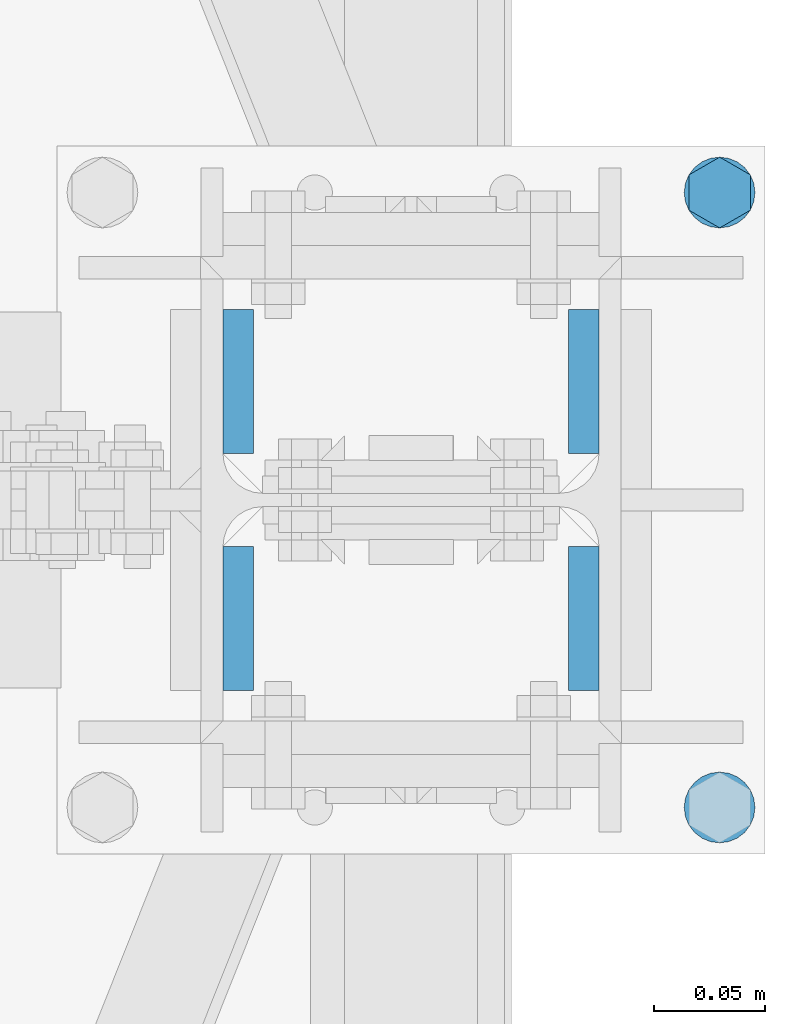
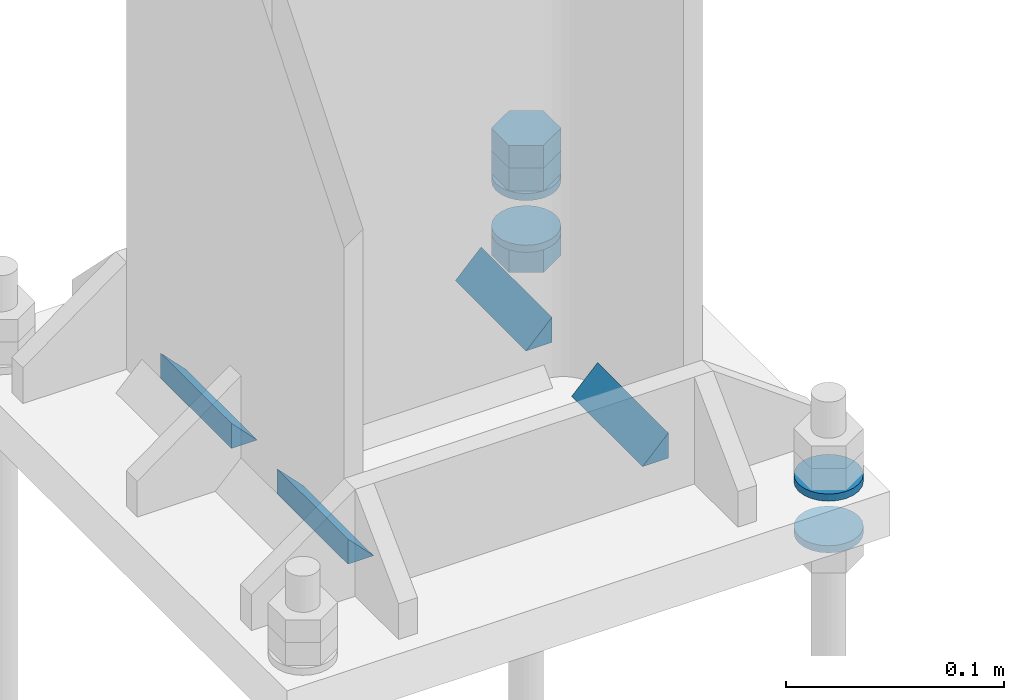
# One storey, part 117 of 251: 8 fasteners, 7 mechanical fasteners.
"""IFC4 building model written with IfcOpenShell, lengths in metres."""

from ifc_helpers import new_model, si_unit, frame, origin_with_axes, place, context, project, spatial, polyline, outline, extrude, type_object, element, save


model = new_model("IFC4")

# Units and contexts
model_context = context("Model", 3, precision=1e-05, world=origin_with_axes())
ifc_project = project(units=[si_unit("LENGTHUNIT", "METRE"), si_unit("AREAUNIT", "SQUARE_METRE"), si_unit("VOLUMEUNIT", "CUBIC_METRE"), si_unit("MASSUNIT", "GRAM", prefix="KILO"), si_unit("TIMEUNIT", "SECOND"), si_unit("PLANEANGLEUNIT", "RADIAN"), si_unit("SOLIDANGLEUNIT", "STERADIAN"), si_unit("THERMODYNAMICTEMPERATUREUNIT", "DEGREE_CELSIUS")], contexts=[model_context])

# Site, building, storey
placement_1 = place(None, origin_with_axes())
site = spatial("IfcSite", under=ifc_project, at=placement_1, Name="Italia", CompositionType="ELEMENT")
building = spatial("IfcBuilding", under=site, at=placement_1, Name="Deposito", CompositionType="ELEMENT")
storey = spatial("IfcBuildingStorey", under=building, at=placement_1, Name="Storey 0", CompositionType="ELEMENT", Elevation=0.0)

# Fasteners
fastener_type_1 = type_object("IfcFastenerType", Name="Collegamenti 0014_-001 0016_-054 0018_-056 0032_-002 0033_-058 0047_-003 0048_-060 0062_-004 0063_-005 0079_-008", PredefinedType="WELD")
placement_2 = place(placement_1, origin_with_axes())
fastener_1_placement = place(placement_2, origin_with_axes())
element("IfcFastener", 1, at=fastener_1_placement, inside=storey, type_object=fastener_type_1, Name="Collegamenti 0014_-001 0016_-054 0018_-056 0032_-002 0033_-058 0047_-003 0048_-060 0062_-004 0063_-005 0079_-008", context=model_context, shape_type="SweptSolid", body=[
    extrude(outline(polyline([(0.0, 0.0), (0.0137482, 0.0141734), (0.0137482, 0.0), (0.0, 0.0)])), frame((19.9287, 5.02095, 0.07495), z_axis=(0.0, 1.0, 0.0), x_axis=(-1.0, 0.0, 0.0)), (0.0, 0.0, 1.0), 0.0651002),
])
fastener_type_2 = type_object("IfcFastenerType", Name="Collegamenti 0014_-001 0016_-054 0018_-056 0032_-002 0033_-058 0047_-003 0048_-060 0062_-004 0063_-005 0079_-008", PredefinedType="WELD")
fastener_2_placement = place(placement_2, origin_with_axes())
element("IfcFastener", 2, at=fastener_2_placement, inside=storey, type_object=fastener_type_2, Name="Collegamenti 0014_-001 0016_-054 0018_-056 0032_-002 0033_-058 0047_-003 0048_-060 0062_-004 0063_-005 0079_-008", context=model_context, shape_type="SweptSolid", body=[
    extrude(outline(polyline([(0.0, 0.0), (0.0137482, 0.0141734), (0.0137482, 0.0), (0.0, 0.0)])), frame((20.0713, 5.08605, 0.07495), z_axis=(0.0, -1.0, 0.0), x_axis=(1.0, 0.0, 0.0)), (0.0, 0.0, 1.0), 0.0651002),
])
fastener_type_3 = type_object("IfcFastenerType", Name="Collegamenti 0014_-001 0016_-054 0018_-056 0032_-002 0033_-058 0047_-003 0048_-060 0062_-004 0063_-005 0079_-008", PredefinedType="WELD")
fastener_3_placement = place(placement_2, origin_with_axes())
element("IfcFastener", 3, at=fastener_3_placement, inside=storey, type_object=fastener_type_3, Name="Collegamenti 0014_-001 0016_-054 0018_-056 0032_-002 0033_-058 0047_-003 0048_-060 0062_-004 0063_-005 0079_-008", context=model_context, shape_type="SweptSolid", body=[
    extrude(outline(polyline([(0.0, 0.0), (0.0137482, 0.0141734), (0.0137482, 0.0), (0.0, 0.0)])), frame((20.0713, 4.97905, 0.07495), z_axis=(0.0, -1.0, 0.0), x_axis=(1.0, 0.0, 0.0)), (0.0, 0.0, 1.0), 0.0651002),
])
fastener_type_4 = type_object("IfcFastenerType", Name="Collegamenti 0014_-001 0016_-054 0018_-056 0032_-002 0033_-058 0047_-003 0048_-060 0062_-004 0063_-005 0079_-008", PredefinedType="WELD")
fastener_4_placement = place(placement_2, origin_with_axes())
element("IfcFastener", 4, at=fastener_4_placement, inside=storey, type_object=fastener_type_4, Name="Collegamenti 0014_-001 0016_-054 0018_-056 0032_-002 0033_-058 0047_-003 0048_-060 0062_-004 0063_-005 0079_-008", context=model_context, shape_type="SweptSolid", body=[
    extrude(outline(polyline([(0.0, 0.0), (0.0137482, 0.0141734), (0.0137482, 0.0), (0.0, 0.0)])), frame((19.9287, 4.91395, 0.07495), z_axis=(0.0, 1.0, 0.0), x_axis=(-1.0, 0.0, 0.0)), (0.0, 0.0, 1.0), 0.0651002),
])
fastener_type_5 = type_object("IfcFastenerType", Name="Collegamenti 0014_-001 0016_-054 0018_-056 0032_-002 0033_-058 0047_-003 0048_-060 0062_-004 0063_-005 0079_-008", PredefinedType="WELD")
fastener_5_placement = place(placement_2, origin_with_axes())
element("IfcFastener", 5, at=fastener_5_placement, inside=storey, type_object=fastener_type_5, Name="Collegamenti 0014_-001 0016_-054 0018_-056 0032_-002 0033_-058 0047_-003 0048_-060 0062_-004 0063_-005 0079_-008", context=model_context, shape_type="SweptSolid", body=[
    extrude(outline(polyline([(0.0, 0.0), (0.0137482, 0.0141734), (0.0137482, 0.0), (0.0, 0.0)])), frame((19.9287, 5.02095, 0.07495), z_axis=(0.0, 1.0, 0.0), x_axis=(-1.0, 0.0, 0.0)), (0.0, 0.0, 1.0), 0.0651002),
])
fastener_type_6 = type_object("IfcFastenerType", Name="Collegamenti 0014_-001 0016_-054 0018_-056 0032_-002 0033_-058 0047_-003 0048_-060 0062_-004 0063_-005 0079_-008", PredefinedType="WELD")
fastener_6_placement = place(placement_2, origin_with_axes())
element("IfcFastener", 6, at=fastener_6_placement, inside=storey, type_object=fastener_type_6, Name="Collegamenti 0014_-001 0016_-054 0018_-056 0032_-002 0033_-058 0047_-003 0048_-060 0062_-004 0063_-005 0079_-008", context=model_context, shape_type="SweptSolid", body=[
    extrude(outline(polyline([(0.0, 0.0), (0.0137482, 0.0141734), (0.0137482, 0.0), (0.0, 0.0)])), frame((20.0713, 5.08605, 0.07495), z_axis=(0.0, -1.0, 0.0), x_axis=(1.0, 0.0, 0.0)), (0.0, 0.0, 1.0), 0.0651002),
])
fastener_type_7 = type_object("IfcFastenerType", Name="Collegamenti 0014_-001 0016_-054 0018_-056 0032_-002 0033_-058 0047_-003 0048_-060 0062_-004 0063_-005 0079_-008", PredefinedType="WELD")
fastener_7_placement = place(placement_2, origin_with_axes())
element("IfcFastener", 7, at=fastener_7_placement, inside=storey, type_object=fastener_type_7, Name="Collegamenti 0014_-001 0016_-054 0018_-056 0032_-002 0033_-058 0047_-003 0048_-060 0062_-004 0063_-005 0079_-008", context=model_context, shape_type="SweptSolid", body=[
    extrude(outline(polyline([(0.0, 0.0), (0.0137482, 0.0141734), (0.0137482, 0.0), (0.0, 0.0)])), frame((20.0713, 4.97905, 0.07495), z_axis=(0.0, -1.0, 0.0), x_axis=(1.0, 0.0, 0.0)), (0.0, 0.0, 1.0), 0.0651002),
])
fastener_type_8 = type_object("IfcFastenerType", Name="Collegamenti 0014_-001 0016_-054 0018_-056 0032_-002 0033_-058 0047_-003 0048_-060 0062_-004 0063_-005 0079_-008", PredefinedType="WELD")
fastener_8_placement = place(placement_2, origin_with_axes())
element("IfcFastener", 8, at=fastener_8_placement, inside=storey, type_object=fastener_type_8, Name="Collegamenti 0014_-001 0016_-054 0018_-056 0032_-002 0033_-058 0047_-003 0048_-060 0062_-004 0063_-005 0079_-008", context=model_context, shape_type="SweptSolid", body=[
    extrude(outline(polyline([(0.0, 0.0), (0.0137482, 0.0141734), (0.0137482, 0.0), (0.0, 0.0)])), frame((19.9287, 4.91395, 0.07495), z_axis=(0.0, 1.0, 0.0), x_axis=(-1.0, 0.0, 0.0)), (0.0, 0.0, 1.0), 0.0651002),
])

# Mechanical fasteners
mechanical_fastener_type_1 = type_object("IfcMechanicalFastenerType", Name="Collegamenti 0014_-001 0016_-054 0018_-056 0032_-002 0033_-058 0047_-003 0048_-060 0062_-004 0063_-005 0079_-008", PredefinedType="BOLT")
mechanical_fastener_1_placement = place(placement_2, origin_with_axes())
element("IfcMechanicalFastener", 9, at=mechanical_fastener_1_placement, inside=storey, type_object=mechanical_fastener_type_1, Name="Collegamenti 0014_-001 0016_-054 0018_-056 0032_-002 0033_-058 0047_-003 0048_-060 0062_-004 0063_-005 0079_-008", NominalDiameter=0.032, context=model_context, shape_type="SweptSolid", body=[
    extrude(outline(polyline([(0.0, 0.0), (-0.000545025, -0.00414085), (-0.00214338, -0.00799942), (-0.00468588, -0.0113144), (-0.0079999, -0.0138569), (-0.0118585, -0.0154552), (-0.0159998, -0.0160007), (-0.0201411, -0.0154552), (-0.0239997, -0.0138569), (-0.0273137, -0.0113144), (-0.0298562, -0.00799942), (-0.0314546, -0.00414085), (-0.0319996, 0.0), (-0.0314546, 0.00414085), (-0.0298562, 0.00799942), (-0.0273137, 0.0113144), (-0.0239997, 0.0138569), (-0.0201411, 0.0154552), (-0.0159998, 0.0160007), (-0.0118585, 0.0154552), (-0.0079999, 0.0138569), (-0.00468588, 0.0113144), (-0.00214338, 0.00799942), (-0.000545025, 0.00414085), (0.0, 0.0)])), frame((20.1395, 4.877, 0.075), z_axis=(0.0, 0.0, 1.0), x_axis=(0.0, 1.0, 0.0)), (0.0, 0.0, 1.0), 0.00399999),
])
mechanical_fastener_type_2 = type_object("IfcMechanicalFastenerType", Name="Collegamenti 0014_-001 0016_-054 0018_-056 0032_-002 0033_-058 0047_-003 0048_-060 0062_-004 0063_-005 0079_-008", PredefinedType="BOLT")
mechanical_fastener_2_placement = place(placement_2, origin_with_axes())
element("IfcMechanicalFastener", 10, at=mechanical_fastener_2_placement, inside=storey, type_object=mechanical_fastener_type_2, Name="Collegamenti 0014_-001 0016_-054 0018_-056 0032_-002 0033_-058 0047_-003 0048_-060 0062_-004 0063_-005 0079_-008", NominalDiameter=0.032, context=model_context, shape_type="SweptSolid", body=[
    extrude(outline(polyline([(0.0, 0.0), (-0.000545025, -0.00414085), (-0.00214338, -0.00799942), (-0.00468588, -0.0113144), (-0.0079999, -0.0138569), (-0.0118585, -0.0154552), (-0.0159998, -0.0160007), (-0.0201411, -0.0154552), (-0.0239997, -0.0138569), (-0.0273137, -0.0113144), (-0.0298562, -0.00799942), (-0.0314546, -0.00414085), (-0.0319996, 0.0), (-0.0314546, 0.00414085), (-0.0298562, 0.00799942), (-0.0273137, 0.0113144), (-0.0239997, 0.0138569), (-0.0201411, 0.0154552), (-0.0159998, 0.0160007), (-0.0118585, 0.0154552), (-0.0079999, 0.0138569), (-0.00468588, 0.0113144), (-0.00214338, 0.00799942), (-0.000545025, 0.00414085), (0.0, 0.0)])), frame((20.1395, 4.877, 0.046), z_axis=(0.0, 0.0, 1.0), x_axis=(0.0, 1.0, 0.0)), (0.0, 0.0, 1.0), 0.004),
])
mechanical_fastener_type_3 = type_object("IfcMechanicalFastenerType", Name="Collegamenti 0014_-001 0016_-054 0018_-056 0032_-002 0033_-058 0047_-003 0048_-060 0062_-004 0063_-005 0079_-008", PredefinedType="BOLT")
mechanical_fastener_3_placement = place(placement_2, origin_with_axes())
element("IfcMechanicalFastener", 11, at=mechanical_fastener_3_placement, inside=storey, type_object=mechanical_fastener_type_3, Name="Collegamenti 0014_-001 0016_-054 0018_-056 0032_-002 0033_-058 0047_-003 0048_-060 0062_-004 0063_-005 0079_-008", NominalDiameter=0.0159998, context=model_context, shape_type="SweptSolid", body=[
    extrude(outline(polyline([(0.0, 0.0), (-0.0159998, 0.0), (-0.0239997, 0.0138569), (-0.0159998, 0.0277138), (0.0, 0.0277138), (0.00800037, 0.0138569), (0.0, 0.0)])), frame((20.1534, 5.147, 0.079), z_axis=(0.0, 0.0, 1.0), x_axis=(0.0, 1.0, 0.0)), (0.0, 0.0, 1.0), 0.0128),
])
mechanical_fastener_type_4 = type_object("IfcMechanicalFastenerType", Name="Collegamenti 0014_-001 0016_-054 0018_-056 0032_-002 0033_-058 0047_-003 0048_-060 0062_-004 0063_-005 0079_-008", PredefinedType="BOLT")
mechanical_fastener_4_placement = place(placement_2, origin_with_axes())
element("IfcMechanicalFastener", 12, at=mechanical_fastener_4_placement, inside=storey, type_object=mechanical_fastener_type_4, Name="Collegamenti 0014_-001 0016_-054 0018_-056 0032_-002 0033_-058 0047_-003 0048_-060 0062_-004 0063_-005 0079_-008", NominalDiameter=0.0159998, context=model_context, shape_type="SweptSolid", body=[
    extrude(outline(polyline([(0.0, 0.0), (-0.0159998, 0.0), (-0.0239997, 0.0138569), (-0.0159998, 0.0277138), (0.0, 0.0277138), (0.00800037, 0.0138569), (0.0, 0.0)])), frame((20.1534, 5.147, 0.0918), z_axis=(0.0, 0.0, 1.0), x_axis=(0.0, 1.0, 0.0)), (0.0, 0.0, 1.0), 0.0128),
])
mechanical_fastener_type_5 = type_object("IfcMechanicalFastenerType", Name="Collegamenti 0014_-001 0016_-054 0018_-056 0032_-002 0033_-058 0047_-003 0048_-060 0062_-004 0063_-005 0079_-008", PredefinedType="BOLT")
mechanical_fastener_5_placement = place(placement_2, origin_with_axes())
element("IfcMechanicalFastener", 13, at=mechanical_fastener_5_placement, inside=storey, type_object=mechanical_fastener_type_5, Name="Collegamenti 0014_-001 0016_-054 0018_-056 0032_-002 0033_-058 0047_-003 0048_-060 0062_-004 0063_-005 0079_-008", NominalDiameter=0.0159998, context=model_context, shape_type="SweptSolid", body=[
    extrude(outline(polyline([(0.0, 0.0), (-0.0159998, 0.0), (-0.0239997, 0.0138569), (-0.0159998, 0.0277138), (0.0, 0.0277138), (0.00800037, 0.0138569), (0.0, 0.0)])), frame((20.1534, 5.147, 0.0332), z_axis=(0.0, 0.0, 1.0), x_axis=(0.0, 1.0, 0.0)), (0.0, 0.0, 1.0), 0.0128),
])
mechanical_fastener_type_6 = type_object("IfcMechanicalFastenerType", Name="Collegamenti 0014_-001 0016_-054 0018_-056 0032_-002 0033_-058 0047_-003 0048_-060 0062_-004 0063_-005 0079_-008", PredefinedType="BOLT")
mechanical_fastener_6_placement = place(placement_2, origin_with_axes())
element("IfcMechanicalFastener", 14, at=mechanical_fastener_6_placement, inside=storey, type_object=mechanical_fastener_type_6, Name="Collegamenti 0014_-001 0016_-054 0018_-056 0032_-002 0033_-058 0047_-003 0048_-060 0062_-004 0063_-005 0079_-008", NominalDiameter=0.032, context=model_context, shape_type="SweptSolid", body=[
    extrude(outline(polyline([(0.0, 0.0), (-0.000545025, -0.00414085), (-0.00214338, -0.00799942), (-0.00468588, -0.0113144), (-0.0079999, -0.0138569), (-0.0118585, -0.0154552), (-0.0159998, -0.0160007), (-0.0201411, -0.0154552), (-0.0239997, -0.0138569), (-0.0273137, -0.0113144), (-0.0298562, -0.00799942), (-0.0314546, -0.00414085), (-0.0319996, 0.0), (-0.0314546, 0.00414085), (-0.0298562, 0.00799942), (-0.0273137, 0.0113144), (-0.0239997, 0.0138569), (-0.0201411, 0.0154552), (-0.0159998, 0.0160007), (-0.0118585, 0.0154552), (-0.0079999, 0.0138569), (-0.00468588, 0.0113144), (-0.00214338, 0.00799942), (-0.000545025, 0.00414085), (0.0, 0.0)])), frame((20.1395, 5.155, 0.075), z_axis=(0.0, 0.0, 1.0), x_axis=(0.0, 1.0, 0.0)), (0.0, 0.0, 1.0), 0.00399999),
])
mechanical_fastener_type_7 = type_object("IfcMechanicalFastenerType", Name="Collegamenti 0014_-001 0016_-054 0018_-056 0032_-002 0033_-058 0047_-003 0048_-060 0062_-004 0063_-005 0079_-008", PredefinedType="BOLT")
mechanical_fastener_7_placement = place(placement_2, origin_with_axes())
element("IfcMechanicalFastener", 15, at=mechanical_fastener_7_placement, inside=storey, type_object=mechanical_fastener_type_7, Name="Collegamenti 0014_-001 0016_-054 0018_-056 0032_-002 0033_-058 0047_-003 0048_-060 0062_-004 0063_-005 0079_-008", NominalDiameter=0.032, context=model_context, shape_type="SweptSolid", body=[
    extrude(outline(polyline([(0.0, 0.0), (-0.000545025, -0.00414085), (-0.00214338, -0.00799942), (-0.00468588, -0.0113144), (-0.0079999, -0.0138569), (-0.0118585, -0.0154552), (-0.0159998, -0.0160007), (-0.0201411, -0.0154552), (-0.0239997, -0.0138569), (-0.0273137, -0.0113144), (-0.0298562, -0.00799942), (-0.0314546, -0.00414085), (-0.0319996, 0.0), (-0.0314546, 0.00414085), (-0.0298562, 0.00799942), (-0.0273137, 0.0113144), (-0.0239997, 0.0138569), (-0.0201411, 0.0154552), (-0.0159998, 0.0160007), (-0.0118585, 0.0154552), (-0.0079999, 0.0138569), (-0.00468588, 0.0113144), (-0.00214338, 0.00799942), (-0.000545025, 0.00414085), (0.0, 0.0)])), frame((20.1395, 5.155, 0.046), z_axis=(0.0, 0.0, 1.0), x_axis=(0.0, 1.0, 0.0)), (0.0, 0.0, 1.0), 0.004),
])

save(model, "model.ifc")
